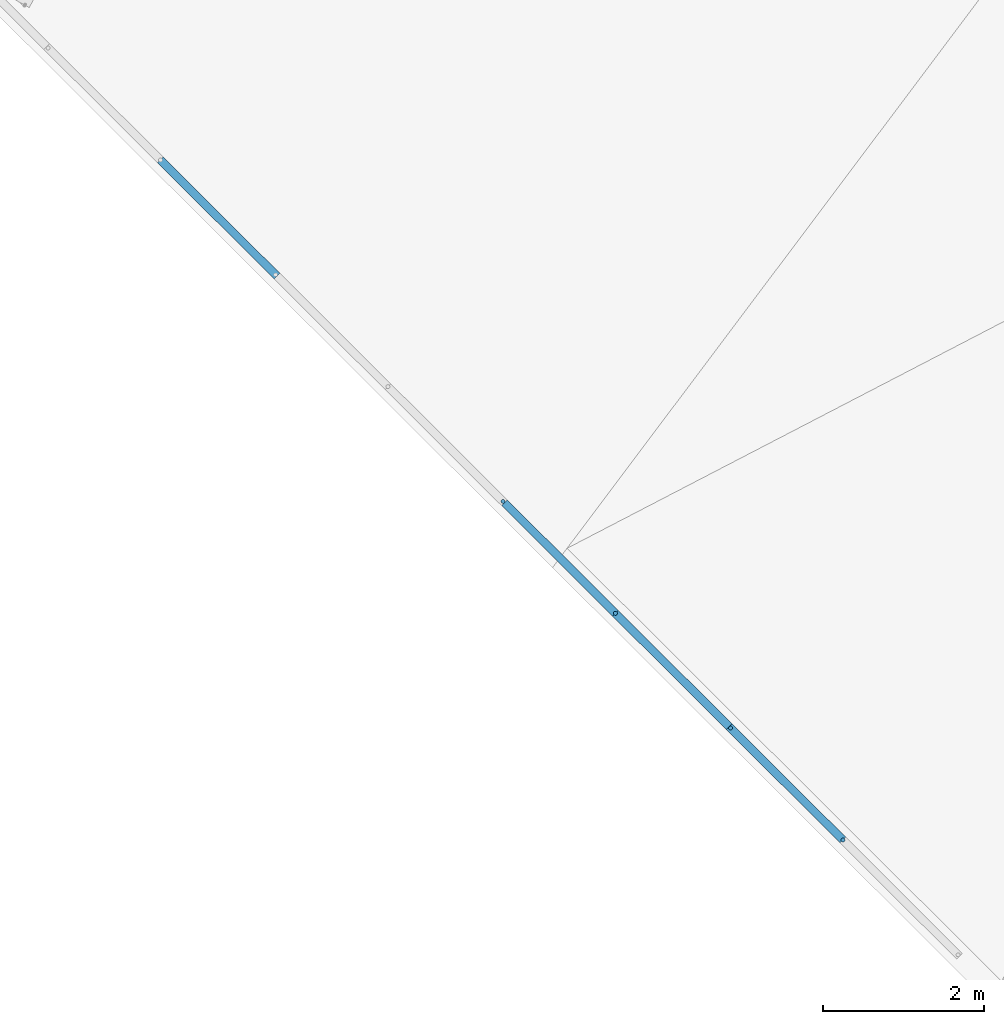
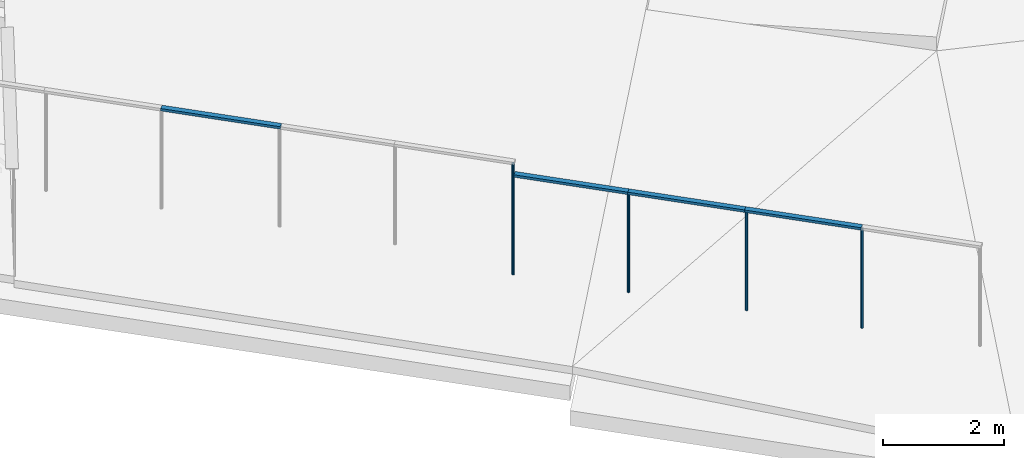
# One storey, part 6 of 33: 10 members, 4 elements without a shape of their own.
"""IFC2X3 building model written with IfcOpenShell, lengths in metres."""

from ifc_helpers import new_model, entity, si_unit, converted_unit, derived_unit, direction, frame, frame_2d, origin, origin_2d_with_axis, place, context, subcontext, project, spatial, rectangle, circle, extrude, source, transform, mapped, material, type_object, type_shapes, element, aggregate, save


model = new_model("IFC2X3")

# Units and contexts
model_context = context("Model", 3, precision=1e-05, world=origin(), true_north=direction((6.123031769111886e-17, 1.0)))
body_context = subcontext(model_context, "Body", "Model", "MODEL_VIEW")
ifc_project = project(units=[si_unit("LENGTHUNIT", "METRE"), si_unit("AREAUNIT", "SQUARE_METRE"), si_unit("VOLUMEUNIT", "CUBIC_METRE"), converted_unit("PLANEANGLEUNIT", "DEGREE", entity("IfcRatioMeasure", 0.017453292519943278), si_unit("PLANEANGLEUNIT", "RADIAN"), dimensions=[0, 0, 0, 0, 0, 0, 0]), si_unit("MASSUNIT", "GRAM", prefix="KILO"), derived_unit("MASSDENSITYUNIT", [(si_unit("MASSUNIT", "GRAM", prefix="KILO"), 1), (si_unit("LENGTHUNIT", "METRE"), -3)]), derived_unit("IONCONCENTRATIONUNIT", [(si_unit("MASSUNIT", "GRAM", prefix="KILO"), 1), (si_unit("LENGTHUNIT", "METRE"), -3)]), derived_unit("MOMENTOFINERTIAUNIT", [(si_unit("LENGTHUNIT", "METRE"), 4)]), si_unit("TIMEUNIT", "SECOND"), si_unit("FREQUENCYUNIT", "HERTZ"), si_unit("THERMODYNAMICTEMPERATUREUNIT", "DEGREE_CELSIUS"), derived_unit("THERMALTRANSMITTANCEUNIT", [(si_unit("MASSUNIT", "GRAM", prefix="KILO"), 1), (si_unit("THERMODYNAMICTEMPERATUREUNIT", "KELVIN"), -1), (si_unit("TIMEUNIT", "SECOND"), -3)]), derived_unit("THERMALCONDUCTANCEUNIT", [(si_unit("MASSUNIT", "GRAM", prefix="KILO"), 1), (si_unit("THERMODYNAMICTEMPERATUREUNIT", "KELVIN"), -1), (si_unit("TIMEUNIT", "SECOND"), -3), (si_unit("LENGTHUNIT", "METRE"), 1)]), derived_unit("VOLUMETRICFLOWRATEUNIT", [(si_unit("LENGTHUNIT", "METRE"), 3), (si_unit("TIMEUNIT", "SECOND"), -1)]), derived_unit("MASSFLOWRATEUNIT", [(si_unit("MASSUNIT", "GRAM", prefix="KILO"), 1), (si_unit("TIMEUNIT", "SECOND"), -1)]), derived_unit("ROTATIONALFREQUENCYUNIT", [(si_unit("TIMEUNIT", "SECOND"), -1)]), si_unit("ELECTRICCURRENTUNIT", "AMPERE"), si_unit("ELECTRICVOLTAGEUNIT", "VOLT"), si_unit("POWERUNIT", "WATT"), si_unit("FORCEUNIT", "NEWTON", prefix="KILO"), si_unit("ILLUMINANCEUNIT", "LUX"), si_unit("LUMINOUSFLUXUNIT", "LUMEN"), si_unit("LUMINOUSINTENSITYUNIT", "CANDELA"), derived_unit("USERDEFINED", [(si_unit("MASSUNIT", "GRAM", prefix="KILO"), -1), (si_unit("LENGTHUNIT", "METRE"), -2), (si_unit("TIMEUNIT", "SECOND"), 3), (si_unit("LUMINOUSFLUXUNIT", "LUMEN"), 1)]), derived_unit("USERDEFINED", [(si_unit("MASSUNIT", "GRAM", prefix="KILO"), 1), (si_unit("TIMEUNIT", "SECOND"), -3), (si_unit("LENGTHUNIT", "METRE"), 3), (si_unit("ELECTRICCURRENTUNIT", "AMPERE"), -2)]), derived_unit("SOUNDPOWERUNIT", [(si_unit("MASSUNIT", "GRAM", prefix="KILO"), 1), (si_unit("TIMEUNIT", "SECOND"), -3), (si_unit("LENGTHUNIT", "METRE"), 2)]), derived_unit("SOUNDPRESSUREUNIT", [(si_unit("MASSUNIT", "GRAM", prefix="KILO"), 1), (si_unit("LENGTHUNIT", "METRE"), -1), (si_unit("TIMEUNIT", "SECOND"), -2)]), derived_unit("LINEARVELOCITYUNIT", [(si_unit("LENGTHUNIT", "METRE"), 1), (si_unit("TIMEUNIT", "SECOND"), -1)]), si_unit("PRESSUREUNIT", "PASCAL"), derived_unit("USERDEFINED", [(si_unit("MASSUNIT", "GRAM", prefix="KILO"), 1), (si_unit("LENGTHUNIT", "METRE"), -2), (si_unit("TIMEUNIT", "SECOND"), -2)]), derived_unit("LINEARFORCEUNIT", [(si_unit("MASSUNIT", "GRAM", prefix="KILO"), 1), (si_unit("TIMEUNIT", "SECOND"), -2)]), derived_unit("PLANARFORCEUNIT", [(si_unit("MASSUNIT", "GRAM", prefix="KILO"), 1), (si_unit("LENGTHUNIT", "METRE"), -1), (si_unit("TIMEUNIT", "SECOND"), -2)]), derived_unit("SPECIFICHEATCAPACITYUNIT", [(si_unit("THERMODYNAMICTEMPERATUREUNIT", "KELVIN"), -1), (si_unit("LENGTHUNIT", "METRE"), 2), (si_unit("TIMEUNIT", "SECOND"), -2)]), derived_unit("HEATINGVALUEUNIT", [(si_unit("LENGTHUNIT", "METRE"), 2), (si_unit("TIMEUNIT", "SECOND"), -2)]), derived_unit("VAPORPERMEABILITYUNIT", [(si_unit("LENGTHUNIT", "METRE"), -1), (si_unit("TIMEUNIT", "SECOND"), 1)]), derived_unit("DYNAMICVISCOSITYUNIT", [(si_unit("MASSUNIT", "GRAM", prefix="KILO"), 1), (si_unit("TIMEUNIT", "SECOND"), -1), (si_unit("LENGTHUNIT", "METRE"), -1)]), derived_unit("THERMALEXPANSIONCOEFFICIENTUNIT", [(si_unit("THERMODYNAMICTEMPERATUREUNIT", "KELVIN"), -1)]), derived_unit("MODULUSOFELASTICITYUNIT", [(si_unit("MASSUNIT", "GRAM", prefix="KILO"), 1), (si_unit("LENGTHUNIT", "METRE"), -1), (si_unit("TIMEUNIT", "SECOND"), -2)]), derived_unit("ISOTHERMALMOISTURECAPACITYUNIT", [(si_unit("LENGTHUNIT", "METRE"), 3), (si_unit("MASSUNIT", "GRAM", prefix="KILO"), -1)]), derived_unit("MOISTUREDIFFUSIVITYUNIT", [(si_unit("TIMEUNIT", "SECOND"), -1), (si_unit("LENGTHUNIT", "METRE"), 2)])], contexts=[model_context])

# Site, building, storey
site_placement = place(None, origin())
site = spatial("IfcSite", under=ifc_project, at=site_placement, Name="Superficie", CompositionType="ELEMENT")
building_placement = place(site_placement, frame((0.0, 0.0, 235.0), z_axis=(0.0, 0.0, 1.0), x_axis=(-0.7996477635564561, 0.6004693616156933, 0.0)))
building = spatial("IfcBuilding", under=site, at=building_placement, CompositionType="ELEMENT")
storey_placement = place(building_placement, origin())
storey = spatial("IfcBuildingStorey", under=building, at=storey_placement, Name="P0- Escola", CompositionType="ELEMENT", Elevation=0.0)

# Curtain wall, member
curtain_wall_type = type_object("IfcCurtainWallType", Name="Muro cortina:SER EXT- Tanca exterior", PredefinedType="NOTDEFINED")
curtain_wall_1_placement = place(storey_placement, origin())
curtain_wall_1 = element("IfcCurtainWall", 1, at=curtain_wall_1_placement, inside=storey, type_object=curtain_wall_type, Name="Muro cortina:SER EXT- Tanca exterior", ObjectType="Muro cortina:SER EXT- Tanca exterior")
ifc_material_1 = material(Name="Acero inoxidable")
member_type_1 = type_object("IfcMemberType", Name="Montante circular:Perfil Tanca exterior", PredefinedType="MULLION", material=ifc_material_1)
shared_shape_1 = source(origin(), body_context, "Body", "SweptSolid", [
    extrude(circle(Radius=0.025, at=frame_2d((-2.1149748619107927e-18, -4.0388614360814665e-17), x_axis=(1.0, 0.0))), frame((0.0, 0.0, -2.0), z_axis=(0.0, 0.0, 1.0), x_axis=(-1.0, 0.0, 0.0)), (0.0, 0.0, 1.0), 1.9999999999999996),
])
type_shapes(member_type_1, [shared_shape_1])
member_1_placement = place(curtain_wall_1_placement, frame((13.166621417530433, -4.37987460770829, 1.4699999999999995), z_axis=(0.0, 0.0, -1.0), x_axis=(0.9902804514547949, -0.1390849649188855, 0.0)))
member_1 = element("IfcMember", 2, at=member_1_placement, type_object=member_type_1, material=ifc_material_1, Name="Montante circular:Perfil Tanca exterior", ObjectType="Montante circular:Perfil Tanca exterior", context=body_context, shape_type="MappedRepresentation", body=[
    mapped(shared_shape_1, transform((0.0, 0.0, 0.0), scale=1.0)),
])

# Curtain wall, members
curtain_wall_2_placement = place(storey_placement, origin())
curtain_wall_2 = element("IfcCurtainWall", 3, at=curtain_wall_2_placement, inside=storey, type_object=curtain_wall_type, Name="Muro cortina:SER EXT- Tanca exterior", ObjectType="Muro cortina:SER EXT- Tanca exterior")
member_2_placement = place(curtain_wall_2_placement, frame((17.127743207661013, -4.936214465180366, 1.4699999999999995), z_axis=(0.0, 0.0, -1.0), x_axis=(0.9902804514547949, -0.13908496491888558, 0.0)))
member_2 = element("IfcMember", 4, at=member_2_placement, type_object=member_type_1, material=ifc_material_1, Name="Montante circular:Perfil Tanca exterior", ObjectType="Montante circular:Perfil Tanca exterior", context=body_context, shape_type="MappedRepresentation", body=[
    mapped(shared_shape_1, transform((0.0, 0.0, 0.0), scale=1.0)),
])
member_type_2 = type_object("IfcMemberType", Name="Montante circular:Perfil Tanca exterior", PredefinedType="MULLION", material=ifc_material_1)
shared_shape_2 = source(origin(), body_context, "Body", "SweptSolid", [
    extrude(circle(Radius=0.025, at=frame_2d((-1.304992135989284e-31, 4.038861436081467e-17), x_axis=(1.0, 0.0))), frame((-0.025, 0.0, -2.0)), (0.0, 0.0, 1.0), 1.9999999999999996),
])
type_shapes(member_type_2, [shared_shape_2])
member_3_placement = place(curtain_wall_2_placement, frame((15.097668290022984, -4.651090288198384, 3.469999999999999), z_axis=(0.0, 0.0, 1.0), x_axis=(-0.9902804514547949, 0.13908496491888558, 0.0)))
member_3 = element("IfcMember", 5, at=member_3_placement, type_object=member_type_2, material=ifc_material_1, Name="Montante circular:Perfil Tanca exterior", ObjectType="Montante circular:Perfil Tanca exterior", context=body_context, shape_type="MappedRepresentation", body=[
    mapped(shared_shape_2, transform((0.0, 0.0, 0.0), scale=1.0)),
])

# Curtain wall, member
curtain_wall_3_placement = place(storey_placement, origin())
curtain_wall_3 = element("IfcCurtainWall", 6, at=curtain_wall_3_placement, inside=storey, type_object=curtain_wall_type, Name="Muro cortina:SER EXT- Tanca exterior", ObjectType="Muro cortina:SER EXT- Tanca exterior")
member_4_placement = place(curtain_wall_3_placement, frame((19.058790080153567, -5.207430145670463, 3.7199999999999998), z_axis=(0.0, 0.0, 1.0), x_axis=(-0.9902804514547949, 0.13908496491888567, 0.0)))
member_4 = element("IfcMember", 7, at=member_4_placement, type_object=member_type_2, material=ifc_material_1, Name="Montante circular:Perfil Tanca exterior", ObjectType="Montante circular:Perfil Tanca exterior", context=body_context, shape_type="MappedRepresentation", body=[
    mapped(shared_shape_2, transform((0.0, 0.0, 0.0), scale=1.0)),
])
aggregate(curtain_wall_3, [member_4])

# Member
member_type_3 = type_object("IfcMemberType", Name="Montante circular:Perfil Tanca exterior", PredefinedType="MULLION", material=ifc_material_1)
shared_shape_3 = source(origin(), body_context, "Body", "SweptSolid", [
    extrude(circle(Radius=0.025, at=frame_2d((1.3661718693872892e-31, -4.46185640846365e-17), x_axis=(1.0, 0.0))), frame((-0.025, 0.0, -2.0), z_axis=(0.0, 0.0, 1.0), x_axis=(-1.0, 0.0, 0.0)), (0.0, 0.0, 1.0), 1.9999999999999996),
])
type_shapes(member_type_3, [shared_shape_3])
member_5_placement = place(curtain_wall_1_placement, frame((15.147182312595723, -4.6580445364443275, 1.4699999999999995), z_axis=(0.0, 0.0, -1.0), x_axis=(0.9902804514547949, -0.1390849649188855, 0.0)))
member_5 = element("IfcMember", 8, at=member_5_placement, type_object=member_type_3, material=ifc_material_1, Name="Montante circular:Perfil Tanca exterior", ObjectType="Montante circular:Perfil Tanca exterior", context=body_context, shape_type="MappedRepresentation", body=[
    mapped(shared_shape_3, transform((0.0, 0.0, 0.0), scale=1.0)),
])

ifc_material_2 = material(Name="_Formigó- Solera- T1- STR")
member_type_4 = type_object("IfcMemberType", Name="Montante rectangular:Montante rectangular 100x50", PredefinedType="MULLION", material=ifc_material_2)
shared_shape_4 = source(origin(), body_context, "Body", "SweptSolid", [
    extrude(rectangle(XDim=0.1, YDim=0.05000000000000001, at=origin_2d_with_axis()), frame((-0.025000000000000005, 0.0, -1.999999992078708), z_axis=(0.0, 0.0, 1.0), x_axis=(0.0, -1.0, 0.0)), (0.0, 0.0, 1.0), 1.9999999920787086),
])
type_shapes(member_type_4, [shared_shape_4])
member_6_placement = place(curtain_wall_1_placement, frame((15.147182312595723, -4.6580445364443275, 3.519999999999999), z_axis=(0.9902804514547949, -0.13908496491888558, 0.0), x_axis=(0.0, 0.0, 1.0)))
member_6 = element("IfcMember", 9, at=member_6_placement, type_object=member_type_4, material=ifc_material_2, Name="Montante rectangular:Montante rectangular 100x50", ObjectType="Montante rectangular:Montante rectangular 100x50", context=body_context, shape_type="MappedRepresentation", body=[
    mapped(shared_shape_4, transform((0.0, 0.0, 0.0), scale=1.0)),
])

aggregate(curtain_wall_1, [member_1, member_5, member_6])

member_type_5 = type_object("IfcMemberType", Name="Montante rectangular:Montante rectangular 100x50", PredefinedType="MULLION", material=ifc_material_2)
shared_shape_5 = source(origin(), body_context, "Body", "SweptSolid", [
    extrude(rectangle(XDim=0.1, YDim=0.05000000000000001, at=origin_2d_with_axis()), frame((-0.025000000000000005, 0.0, -2.0499999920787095), z_axis=(0.0, 0.0, 1.0), x_axis=(0.0, -1.0, 0.0)), (0.0, 0.0, 1.0), 2.04999999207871),
])
type_shapes(member_type_5, [shared_shape_5])
member_7_placement = place(curtain_wall_2_placement, frame((17.127743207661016, -4.936214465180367, 3.519999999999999), z_axis=(0.9902804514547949, -0.13908496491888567, 0.0), x_axis=(0.0, 0.0, 1.0)))
member_7 = element("IfcMember", 10, at=member_7_placement, type_object=member_type_5, material=ifc_material_2, Name="Montante rectangular:Montante rectangular 100x50", ObjectType="Montante rectangular:Montante rectangular 100x50", context=body_context, shape_type="MappedRepresentation", body=[
    mapped(shared_shape_5, transform((0.0, 0.0, 0.0), scale=1.0)),
])

# Curtain wall, member
curtain_wall_4_placement = place(storey_placement, origin())
curtain_wall_4 = element("IfcCurtainWall", 11, at=curtain_wall_4_placement, inside=storey, type_object=curtain_wall_type, Name="Muro cortina:SER EXT- Tanca exterior", ObjectType="Muro cortina:SER EXT- Tanca exterior")
member_8_placement = place(curtain_wall_4_placement, frame((25.049986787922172, -6.048894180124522, 3.7699999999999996), z_axis=(0.9902804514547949, -0.1390849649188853, 0.0), x_axis=(0.0, 0.0, 1.0)))
member_8 = element("IfcMember", 12, at=member_8_placement, type_object=member_type_5, material=ifc_material_2, Name="Montante rectangular:Montante rectangular 100x50", ObjectType="Montante rectangular:Montante rectangular 100x50", context=body_context, shape_type="MappedRepresentation", body=[
    mapped(shared_shape_5, transform((0.0, 0.0, 0.0), scale=1.0)),
])
aggregate(curtain_wall_4, [member_8])

# Member
member_type_6 = type_object("IfcMemberType", Name="Montante circular:Perfil Tanca exterior", PredefinedType="MULLION", material=ifc_material_1)
shared_shape_6 = source(origin(), body_context, "Body", "SweptSolid", [
    extrude(circle(Radius=0.025, at=frame_2d((1.3661718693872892e-31, -4.46185640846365e-17), x_axis=(1.0, 0.0))), frame((-0.025, 0.0, -2.0499999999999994), z_axis=(0.0, 0.0, 1.0), x_axis=(-1.0, 0.0, 0.0)), (0.0, 0.0, 1.0), 2.0499999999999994),
])
type_shapes(member_type_6, [shared_shape_6])
member_9_placement = place(curtain_wall_2_placement, frame((19.108304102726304, -5.214384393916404, 1.4699999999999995), z_axis=(0.0, 0.0, -1.0), x_axis=(0.9902804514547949, -0.13908496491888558, 0.0)))
member_9 = element("IfcMember", 13, at=member_9_placement, type_object=member_type_6, material=ifc_material_1, Name="Montante circular:Perfil Tanca exterior", ObjectType="Montante circular:Perfil Tanca exterior", context=body_context, shape_type="MappedRepresentation", body=[
    mapped(shared_shape_6, transform((0.0, 0.0, 0.0), scale=1.0)),
])

member_type_7 = type_object("IfcMemberType", Name="Montante rectangular:Montante rectangular 100x50", PredefinedType="MULLION", material=ifc_material_2)
shared_shape_7 = source(origin(), body_context, "Body", "SweptSolid", [
    extrude(rectangle(XDim=0.1, YDim=0.05000000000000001, at=origin_2d_with_axis()), frame((-0.025000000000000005, 0.0, -1.9499999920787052), z_axis=(0.0, 0.0, 1.0), x_axis=(0.0, -1.0, 0.0)), (0.0, 0.0, 1.0), 1.9499999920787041),
])
type_shapes(member_type_7, [shared_shape_7])
member_10_placement = place(curtain_wall_2_placement, frame((19.058790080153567, -5.207430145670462, 3.519999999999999), z_axis=(0.9902804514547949, -0.13908496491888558, 0.0), x_axis=(0.0, 0.0, 1.0)))
member_10 = element("IfcMember", 14, at=member_10_placement, type_object=member_type_7, material=ifc_material_2, Name="Montante rectangular:Montante rectangular 100x50", ObjectType="Montante rectangular:Montante rectangular 100x50", context=body_context, shape_type="MappedRepresentation", body=[
    mapped(shared_shape_7, transform((0.0, 0.0, 0.0), scale=1.0)),
])

aggregate(curtain_wall_2, [member_3, member_2, member_9, member_10, member_7])

save(model, "model.ifc")
